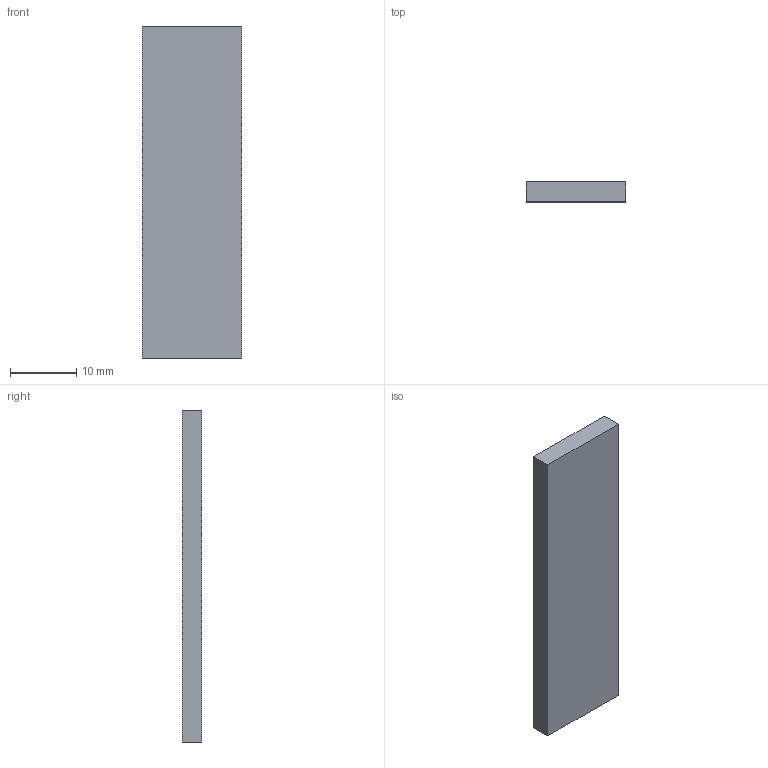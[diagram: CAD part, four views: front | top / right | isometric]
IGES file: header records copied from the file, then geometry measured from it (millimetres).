
Start section: SolidWorks IGES file using analytic representation for surfaces
Global section: file name: C:\Documents and Settings\URETIM3\Desktop\yeni katalog tolgay düzenli\E kataloðu\DÜZ LAMA PROFÝL ALPOLEN 1000\206 LMS  315.IGS; native system: SolidWorks 2006 by SolidWorks Corporation; preprocessor: SolidWorks 2006 by SolidWorks Corporation; author: URETIM3; date: 060913.090011; units: millimetre
Bounding box: 15 x 3 x 50 mm (x, y, z)
Surface area: 1890 mm2 (no closed solid volume)
Topology: 0 solids, 0 shells, 6 faces, 24 edges, 24 vertices
Faces by surface type: bspline 6
